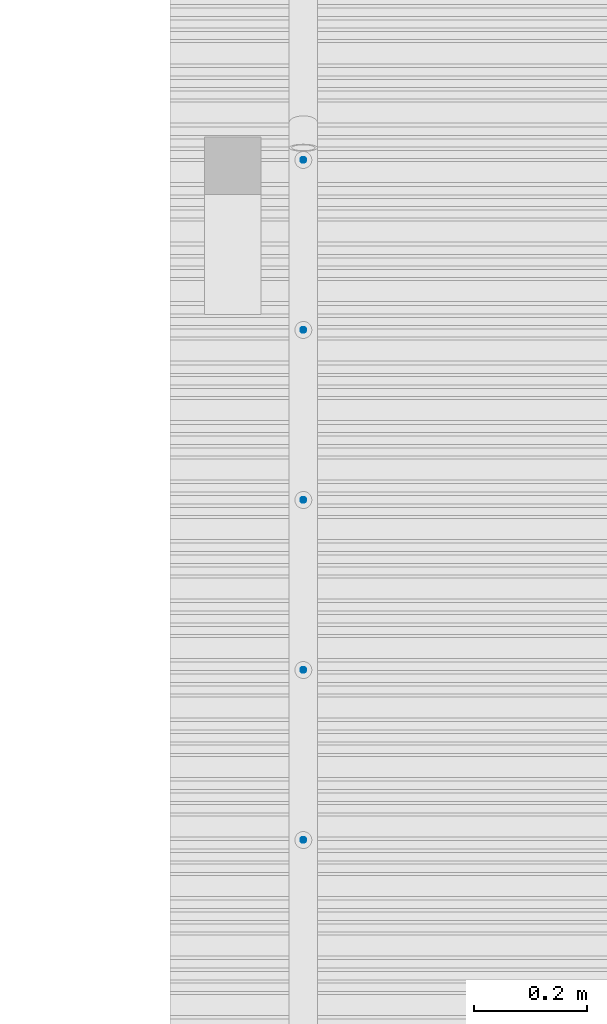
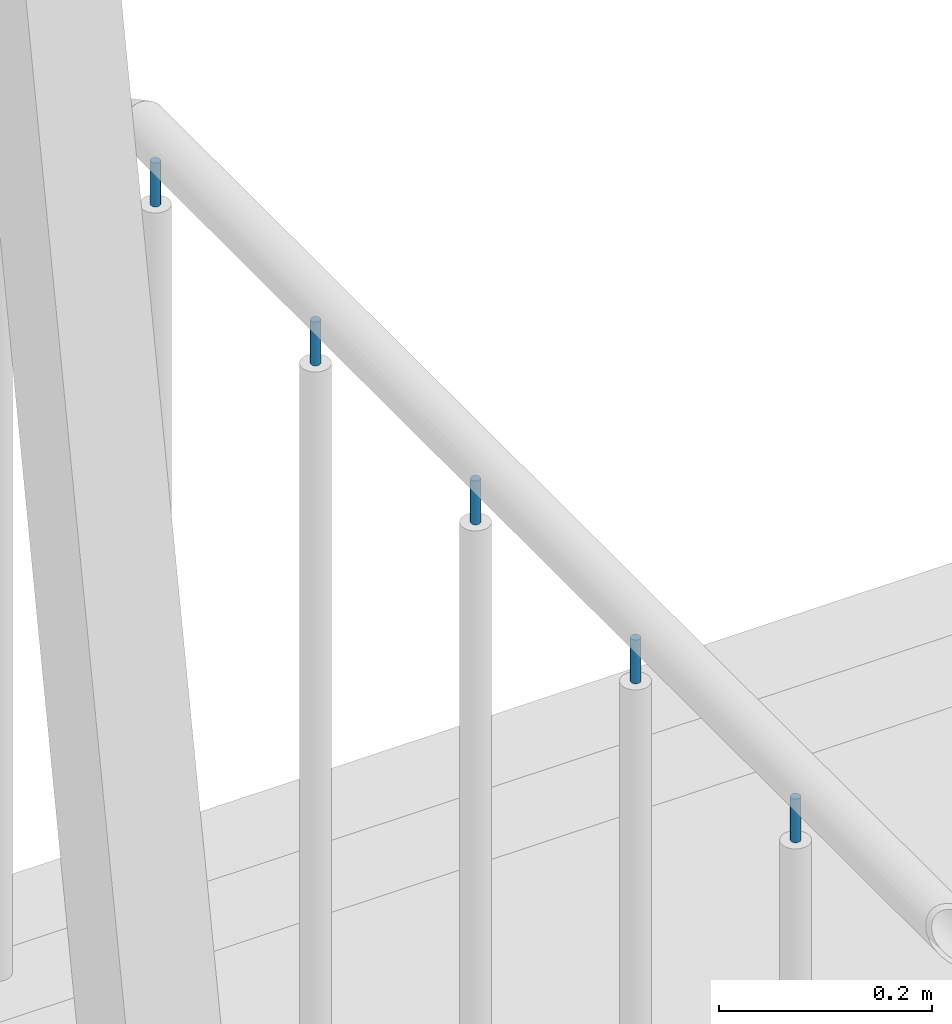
# One storey, part 121 of 418: 1 building element part, 2 elements without a shape of their own.
"""IFC2X3 building model written with IfcOpenShell, lengths in millimetres."""

from ifc_helpers import new_model, entity, si_unit, converted_unit, derived_unit, money_unit, direction, frame, origin_with_axes, place, context, subcontext, project, spatial, faceted_brep, material, type_object, element, aggregate, save


model = new_model("IFC2X3")

# Units and contexts
model_context = context("Model", 3, precision=0.01, world=origin_with_axes(), true_north=direction((0.0, 1.0)))
body_context = subcontext(model_context, "Body", "Model", "MODEL_VIEW")
ifc_project = project(units=[si_unit("LENGTHUNIT", "METRE", prefix="MILLI"), si_unit("AREAUNIT", "SQUARE_METRE"), si_unit("VOLUMEUNIT", "CUBIC_METRE"), converted_unit("PLANEANGLEUNIT", "DEGREE", entity("IfcPlaneAngleMeasure", 0.0174532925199), si_unit("PLANEANGLEUNIT", "RADIAN"), dimensions=[0, 0, 0, 0, 0, 0, 0]), si_unit("SOLIDANGLEUNIT", "STERADIAN"), money_unit("EUR"), converted_unit("TIMEUNIT", "Year", entity("IfcTimeMeasure", 31556926.0), si_unit("TIMEUNIT", "SECOND"), dimensions=[0, 0, 1, 0, 0, 0, 0]), si_unit("MASSUNIT", "GRAM", prefix="KILO"), si_unit("THERMODYNAMICTEMPERATUREUNIT", "DEGREE_CELSIUS"), si_unit("LUMINOUSINTENSITYUNIT", "LUMEN"), si_unit("ENERGYUNIT", "JOULE", prefix="MEGA"), derived_unit("THERMALCONDUCTANCEUNIT", [(si_unit("POWERUNIT", "WATT"), 1), (si_unit("LENGTHUNIT", "METRE"), -1), (si_unit("THERMODYNAMICTEMPERATUREUNIT", "KELVIN"), -1)]), derived_unit("SPECIFICHEATCAPACITYUNIT", [(si_unit("ENERGYUNIT", "JOULE"), 1), (si_unit("MASSUNIT", "GRAM", prefix="KILO"), -1), (si_unit("THERMODYNAMICTEMPERATUREUNIT", "KELVIN"), -1)]), derived_unit("MASSDENSITYUNIT", [(si_unit("MASSUNIT", "GRAM", prefix="KILO"), 1), (si_unit("VOLUMEUNIT", "CUBIC_METRE"), -1)])], contexts=[model_context])

# Site, building, storey
site_placement = place(None, origin_with_axes())
site = spatial("IfcSite", under=ifc_project, at=site_placement, Name="Paldiski mnt 245/1, Tallinn, Harjumaa", CompositionType="COMPLEX")
building_placement = place(site_placement, origin_with_axes())
building = spatial("IfcBuilding", under=site, at=building_placement, Name="RKAS Hoone üldnimetus (kasutust iseloomustav) -> IFC Project Manager -> SOLIBRI", CompositionType="ELEMENT")
storey_placement = place(building_placement, origin_with_axes())
storey = spatial("IfcBuildingStorey", under=building, at=storey_placement, Name="Esimene korrus", CompositionType="ELEMENT", Elevation=0.0)

# Proxies, building element part
building_element_proxy_type_1 = type_object("IfcBuildingElementProxyType", Name="Railing Type", PredefinedType="NOTDEFINED")
proxy_1_placement = place(storey_placement, frame((-41536.0, 460.000000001, -500.846302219), z_axis=(0.0, 0.0, 1.0), x_axis=(1.0, 0.0, 0.0)))
proxy_1 = element("IfcBuildingElementProxy", 1, at=proxy_1_placement, inside=storey, type_object=building_element_proxy_type_1, Name="Trepipiire")
building_element_proxy_type_2 = type_object("IfcBuildingElementProxyType", Name="IfcBuildingElementProxy", PredefinedType="NOTDEFINED")
proxy_2_placement = place(proxy_1_placement, frame((0.0, 855.900250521, 1424.94460278), z_axis=(0.0, 0.0, 1.0), x_axis=(1.0, 0.0, 0.0)))
proxy_2 = element("IfcBuildingElementProxy", 2, at=proxy_2_placement, type_object=building_element_proxy_type_2, Name="ÜL PIIRE - 001")
aggregate(proxy_1, [proxy_2])
ifc_material = material(Name="Teras - Konstruktsioon")
building_element_part_placement = place(proxy_2_placement, origin_with_axes())
building_element_part = element("IfcBuildingElementPart", 3, at=building_element_part_placement, material=ifc_material, Name="Teras - Konstruktsioon", context=body_context, shape_type="Brep", body=[
    faceted_brep([(0.0, -418.900250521, -44.0983005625), (0.868240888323, -418.824289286, -44.0983005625), (0.868240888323, -418.824289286, 5.90169943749), (0.0, -418.900250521, 5.90169943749), (-0.868240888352, -418.824289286, -44.0983005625), (-1.71010071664, -418.598713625, -44.0983005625), (-2.50000000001, -418.23037754, -44.0983005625), (-3.21393804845, -417.730472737, -44.0983005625), (-3.83022221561, -417.11418857, -44.0983005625), (-4.33012701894, -416.400250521, -44.0983005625), (-4.69846310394, -415.610351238, -44.0983005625), (-4.92403876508, -414.768491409, -44.0983005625), (-5.00000000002, -413.900250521, -44.0983005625), (-4.92403876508, -413.032009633, -44.0983005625), (-4.69846310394, -412.190149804, -44.0983005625), (-4.33012701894, -411.400250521, -44.0983005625), (-3.83022221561, -410.686312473, -44.0983005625), (-3.21393804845, -410.070028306, -44.0983005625), (-2.50000000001, -409.570123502, -44.0983005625), (-1.71010071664, -409.201787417, -44.0983005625), (-0.868240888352, -408.976211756, -44.0983005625), (0.0, -408.900250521, -44.0983005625), (0.868240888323, -408.976211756, -44.0983005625), (1.71010071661, -409.201787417, -44.0983005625), (2.49999999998, -409.570123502, -44.0983005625), (3.21393804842, -410.070028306, -44.0983005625), (3.83022221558, -410.686312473, -44.0983005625), (4.33012701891, -411.400250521, -44.0983005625), (4.69846310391, -412.190149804, -44.0983005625), (4.92403876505, -413.032009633, -44.0983005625), (4.99999999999, -413.900250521, -44.0983005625), (4.92403876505, -414.768491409, -44.0983005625), (4.69846310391, -415.610351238, -44.0983005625), (4.33012701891, -416.400250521, -44.0983005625), (3.83022221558, -417.11418857, -44.0983005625), (3.21393804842, -417.730472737, -44.0983005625), (2.49999999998, -418.23037754, -44.0983005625), (1.71010071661, -418.598713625, -44.0983005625), (1.71010071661, -418.598713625, 5.90169943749), (2.49999999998, -418.23037754, 5.90169943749), (3.21393804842, -417.730472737, 5.90169943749), (3.83022221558, -417.11418857, 5.90169943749), (4.33012701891, -416.400250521, 5.90169943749), (4.69846310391, -415.610351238, 5.90169943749), (4.92403876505, -414.768491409, 5.90169943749), (4.99999999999, -413.900250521, 5.90169943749), (4.92403876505, -413.032009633, 5.90169943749), (4.69846310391, -412.190149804, 5.90169943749), (4.33012701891, -411.400250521, 5.90169943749), (3.83022221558, -410.686312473, 5.90169943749), (3.21393804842, -410.070028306, 5.90169943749), (2.49999999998, -409.570123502, 5.90169943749), (1.71010071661, -409.201787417, 5.90169943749), (0.868240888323, -408.976211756, 5.90169943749), (0.0, -408.900250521, 5.90169943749), (-0.868240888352, -408.976211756, 5.90169943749), (-1.71010071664, -409.201787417, 5.90169943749), (-2.50000000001, -409.570123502, 5.90169943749), (-3.21393804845, -410.070028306, 5.90169943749), (-3.83022221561, -410.686312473, 5.90169943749), (-4.33012701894, -411.400250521, 5.90169943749), (-4.69846310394, -412.190149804, 5.90169943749), (-4.92403876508, -413.032009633, 5.90169943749), (-5.00000000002, -413.900250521, 5.90169943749), (-4.92403876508, -414.768491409, 5.90169943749), (-4.69846310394, -415.610351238, 5.90169943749), (-4.33012701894, -416.400250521, 5.90169943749), (-3.83022221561, -417.11418857, 5.90169943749), (-3.21393804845, -417.730472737, 5.90169943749), (-2.50000000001, -418.23037754, 5.90169943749), (-1.71010071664, -418.598713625, 5.90169943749), (-0.868240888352, -418.824289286, 5.90169943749)], [[[0, 1, 2, 3]], [[0, 4, 5, 6, 7, 8, 9, 10, 11, 12, 13, 14, 15, 16, 17, 18, 19, 20, 21, 22, 23, 24, 25, 26, 27, 28, 29, 30, 31, 32, 33, 34, 35, 36, 37, 1]], [[1, 37, 38, 2]], [[3, 2, 38, 39, 40, 41, 42, 43, 44, 45, 46, 47, 48, 49, 50, 51, 52, 53, 54, 55, 56, 57, 58, 59, 60, 61, 62, 63, 64, 65, 66, 67, 68, 69, 70, 71]], [[4, 0, 3, 71]], [[5, 4, 71, 70]], [[6, 5, 70, 69]], [[7, 6, 69, 68]], [[8, 7, 68, 67]], [[9, 8, 67, 66]], [[10, 9, 66, 65]], [[11, 10, 65, 64]], [[12, 11, 64, 63]], [[13, 12, 63, 62]], [[14, 13, 62, 61]], [[15, 14, 61, 60]], [[16, 15, 60, 59]], [[17, 16, 59, 58]], [[18, 17, 58, 57]], [[19, 18, 57, 56]], [[20, 19, 56, 55]], [[21, 20, 55, 54]], [[22, 21, 54, 53]], [[23, 22, 53, 52]], [[24, 23, 52, 51]], [[25, 24, 51, 50]], [[26, 25, 50, 49]], [[27, 26, 49, 48]], [[28, 27, 48, 47]], [[29, 28, 47, 46]], [[30, 29, 46, 45]], [[31, 30, 45, 44]], [[32, 31, 44, 43]], [[33, 32, 43, 42]], [[34, 33, 42, 41]], [[35, 34, 41, 40]], [[36, 35, 40, 39]], [[37, 36, 39, 38]]]),
    faceted_brep([(0.0, -118.900250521, -44.0983005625), (0.86824088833, -118.824289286, -44.0983005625), (0.86824088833, -118.824289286, 5.90169943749), (0.0, -118.900250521, 5.90169943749), (-0.868240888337, -118.824289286, -44.0983005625), (-1.71010071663, -118.598713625, -44.0983005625), (-2.5, -118.23037754, -44.0983005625), (-3.21393804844, -117.730472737, -44.0983005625), (-3.8302222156, -117.11418857, -44.0983005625), (-4.33012701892, -116.400250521, -44.0983005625), (-4.69846310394, -115.610351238, -44.0983005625), (-4.92403876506, -114.768491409, -44.0983005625), (-5.0, -113.900250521, -44.0983005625), (-4.92403876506, -113.032009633, -44.0983005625), (-4.69846310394, -112.190149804, -44.0983005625), (-4.33012701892, -111.400250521, -44.0983005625), (-3.8302222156, -110.686312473, -44.0983005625), (-3.21393804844, -110.070028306, -44.0983005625), (-2.5, -109.570123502, -44.0983005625), (-1.71010071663, -109.201787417, -44.0983005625), (-0.868240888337, -108.976211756, -44.0983005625), (0.0, -108.900250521, -44.0983005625), (0.86824088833, -108.976211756, -44.0983005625), (1.71010071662, -109.201787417, -44.0983005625), (2.5, -109.570123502, -44.0983005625), (3.21393804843, -110.070028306, -44.0983005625), (3.83022221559, -110.686312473, -44.0983005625), (4.33012701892, -111.400250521, -44.0983005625), (4.69846310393, -112.190149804, -44.0983005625), (4.92403876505, -113.032009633, -44.0983005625), (5.0, -113.900250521, -44.0983005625), (4.92403876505, -114.768491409, -44.0983005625), (4.69846310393, -115.610351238, -44.0983005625), (4.33012701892, -116.400250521, -44.0983005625), (3.83022221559, -117.11418857, -44.0983005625), (3.21393804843, -117.730472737, -44.0983005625), (2.5, -118.23037754, -44.0983005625), (1.71010071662, -118.598713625, -44.0983005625), (1.71010071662, -118.598713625, 5.90169943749), (2.5, -118.23037754, 5.90169943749), (3.21393804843, -117.730472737, 5.90169943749), (3.83022221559, -117.11418857, 5.90169943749), (4.33012701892, -116.400250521, 5.90169943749), (4.69846310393, -115.610351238, 5.90169943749), (4.92403876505, -114.768491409, 5.90169943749), (5.0, -113.900250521, 5.90169943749), (4.92403876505, -113.032009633, 5.90169943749), (4.69846310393, -112.190149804, 5.90169943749), (4.33012701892, -111.400250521, 5.90169943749), (3.83022221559, -110.686312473, 5.90169943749), (3.21393804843, -110.070028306, 5.90169943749), (2.5, -109.570123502, 5.90169943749), (1.71010071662, -109.201787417, 5.90169943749), (0.86824088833, -108.976211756, 5.90169943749), (0.0, -108.900250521, 5.90169943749), (-0.868240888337, -108.976211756, 5.90169943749), (-1.71010071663, -109.201787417, 5.90169943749), (-2.5, -109.570123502, 5.90169943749), (-3.21393804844, -110.070028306, 5.90169943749), (-3.8302222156, -110.686312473, 5.90169943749), (-4.33012701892, -111.400250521, 5.90169943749), (-4.69846310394, -112.190149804, 5.90169943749), (-4.92403876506, -113.032009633, 5.90169943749), (-5.0, -113.900250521, 5.90169943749), (-4.92403876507, -114.768491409, 5.90169943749), (-4.69846310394, -115.610351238, 5.90169943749), (-4.33012701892, -116.400250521, 5.90169943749), (-3.8302222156, -117.11418857, 5.90169943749), (-3.21393804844, -117.730472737, 5.90169943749), (-2.5, -118.23037754, 5.90169943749), (-1.71010071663, -118.598713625, 5.90169943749), (-0.868240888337, -118.824289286, 5.90169943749)], [[[0, 1, 2, 3]], [[0, 4, 5, 6, 7, 8, 9, 10, 11, 12, 13, 14, 15, 16, 17, 18, 19, 20, 21, 22, 23, 24, 25, 26, 27, 28, 29, 30, 31, 32, 33, 34, 35, 36, 37, 1]], [[1, 37, 38, 2]], [[3, 2, 38, 39, 40, 41, 42, 43, 44, 45, 46, 47, 48, 49, 50, 51, 52, 53, 54, 55, 56, 57, 58, 59, 60, 61, 62, 63, 64, 65, 66, 67, 68, 69, 70, 71]], [[4, 0, 3, 71]], [[5, 4, 71, 70]], [[6, 5, 70, 69]], [[7, 6, 69, 68]], [[8, 7, 68, 67]], [[9, 8, 67, 66]], [[10, 9, 66, 65]], [[11, 10, 65, 64]], [[12, 11, 64, 63]], [[13, 12, 63, 62]], [[14, 13, 62, 61]], [[15, 14, 61, 60]], [[16, 15, 60, 59]], [[17, 16, 59, 58]], [[18, 17, 58, 57]], [[19, 18, 57, 56]], [[20, 19, 56, 55]], [[21, 20, 55, 54]], [[22, 21, 54, 53]], [[23, 22, 53, 52]], [[24, 23, 52, 51]], [[25, 24, 51, 50]], [[26, 25, 50, 49]], [[27, 26, 49, 48]], [[28, 27, 48, 47]], [[29, 28, 47, 46]], [[30, 29, 46, 45]], [[31, 30, 45, 44]], [[32, 31, 44, 43]], [[33, 32, 43, 42]], [[34, 33, 42, 41]], [[35, 34, 41, 40]], [[36, 35, 40, 39]], [[37, 36, 39, 38]]]),
    faceted_brep([(0.0, 181.099749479, -44.0983005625), (0.868240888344, 181.175710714, -44.0983005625), (0.868240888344, 181.175710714, 5.90169943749), (0.0, 181.099749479, 5.90169943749), (-0.86824088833, 181.175710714, -44.0983005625), (-1.71010071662, 181.401286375, -44.0983005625), (-2.49999999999, 181.76962246, -44.0983005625), (-3.21393804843, 182.269527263, -44.0983005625), (-3.83022221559, 182.88581143, -44.0983005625), (-4.33012701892, 183.599749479, -44.0983005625), (-4.69846310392, 184.389648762, -44.0983005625), (-4.92403876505, 185.231508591, -44.0983005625), (-5.0, 186.099749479, -44.0983005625), (-4.92403876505, 186.967990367, -44.0983005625), (-4.69846310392, 187.809850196, -44.0983005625), (-4.33012701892, 188.599749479, -44.0983005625), (-3.83022221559, 189.313687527, -44.0983005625), (-3.21393804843, 189.929971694, -44.0983005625), (-2.49999999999, 190.429876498, -44.0983005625), (-1.71010071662, 190.798212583, -44.0983005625), (-0.86824088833, 191.023788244, -44.0983005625), (0.0, 191.099749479, -44.0983005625), (0.868240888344, 191.023788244, -44.0983005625), (1.71010071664, 190.798212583, -44.0983005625), (2.5, 190.429876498, -44.0983005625), (3.21393804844, 189.929971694, -44.0983005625), (3.8302222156, 189.313687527, -44.0983005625), (4.33012701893, 188.599749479, -44.0983005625), (4.69846310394, 187.809850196, -44.0983005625), (4.92403876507, 186.967990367, -44.0983005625), (5.00000000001, 186.099749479, -44.0983005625), (4.92403876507, 185.231508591, -44.0983005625), (4.69846310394, 184.389648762, -44.0983005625), (4.33012701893, 183.599749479, -44.0983005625), (3.8302222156, 182.88581143, -44.0983005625), (3.21393804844, 182.269527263, -44.0983005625), (2.5, 181.76962246, -44.0983005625), (1.71010071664, 181.401286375, -44.0983005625), (1.71010071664, 181.401286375, 5.90169943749), (2.5, 181.76962246, 5.90169943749), (3.21393804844, 182.269527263, 5.90169943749), (3.8302222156, 182.88581143, 5.90169943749), (4.33012701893, 183.599749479, 5.90169943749), (4.69846310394, 184.389648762, 5.90169943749), (4.92403876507, 185.231508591, 5.90169943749), (5.00000000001, 186.099749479, 5.90169943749), (4.92403876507, 186.967990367, 5.90169943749), (4.69846310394, 187.809850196, 5.90169943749), (4.33012701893, 188.599749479, 5.90169943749), (3.8302222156, 189.313687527, 5.90169943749), (3.21393804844, 189.929971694, 5.90169943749), (2.5, 190.429876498, 5.90169943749), (1.71010071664, 190.798212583, 5.90169943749), (0.868240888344, 191.023788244, 5.90169943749), (0.0, 191.099749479, 5.90169943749), (-0.86824088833, 191.023788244, 5.90169943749), (-1.71010071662, 190.798212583, 5.90169943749), (-2.49999999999, 190.429876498, 5.90169943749), (-3.21393804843, 189.929971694, 5.90169943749), (-3.83022221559, 189.313687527, 5.90169943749), (-4.33012701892, 188.599749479, 5.90169943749), (-4.69846310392, 187.809850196, 5.90169943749), (-4.92403876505, 186.967990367, 5.90169943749), (-5.0, 186.099749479, 5.90169943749), (-4.92403876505, 185.231508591, 5.90169943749), (-4.69846310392, 184.389648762, 5.90169943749), (-4.33012701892, 183.599749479, 5.90169943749), (-3.83022221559, 182.88581143, 5.90169943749), (-3.21393804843, 182.269527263, 5.90169943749), (-2.49999999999, 181.76962246, 5.90169943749), (-1.71010071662, 181.401286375, 5.90169943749), (-0.86824088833, 181.175710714, 5.90169943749)], [[[0, 1, 2, 3]], [[0, 4, 5, 6, 7, 8, 9, 10, 11, 12, 13, 14, 15, 16, 17, 18, 19, 20, 21, 22, 23, 24, 25, 26, 27, 28, 29, 30, 31, 32, 33, 34, 35, 36, 37, 1]], [[1, 37, 38, 2]], [[3, 2, 38, 39, 40, 41, 42, 43, 44, 45, 46, 47, 48, 49, 50, 51, 52, 53, 54, 55, 56, 57, 58, 59, 60, 61, 62, 63, 64, 65, 66, 67, 68, 69, 70, 71]], [[4, 0, 3, 71]], [[5, 4, 71, 70]], [[6, 5, 70, 69]], [[7, 6, 69, 68]], [[8, 7, 68, 67]], [[9, 8, 67, 66]], [[10, 9, 66, 65]], [[11, 10, 65, 64]], [[12, 11, 64, 63]], [[13, 12, 63, 62]], [[14, 13, 62, 61]], [[15, 14, 61, 60]], [[16, 15, 60, 59]], [[17, 16, 59, 58]], [[18, 17, 58, 57]], [[19, 18, 57, 56]], [[20, 19, 56, 55]], [[21, 20, 55, 54]], [[22, 21, 54, 53]], [[23, 22, 53, 52]], [[24, 23, 52, 51]], [[25, 24, 51, 50]], [[26, 25, 50, 49]], [[27, 26, 49, 48]], [[28, 27, 48, 47]], [[29, 28, 47, 46]], [[30, 29, 46, 45]], [[31, 30, 45, 44]], [[32, 31, 44, 43]], [[33, 32, 43, 42]], [[34, 33, 42, 41]], [[35, 34, 41, 40]], [[36, 35, 40, 39]], [[37, 36, 39, 38]]]),
    faceted_brep([(0.0, 481.099749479, -44.0983005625), (0.868240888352, 481.175710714, -44.0983005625), (0.868240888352, 481.175710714, 5.90169943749), (0.0, 481.099749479, 5.90169943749), (-0.868240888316, 481.175710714, -44.0983005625), (-1.71010071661, 481.401286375, -44.0983005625), (-2.49999999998, 481.76962246, -44.0983005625), (-3.21393804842, 482.269527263, -44.0983005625), (-3.83022221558, 482.88581143, -44.0983005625), (-4.3301270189, 483.599749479, -44.0983005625), (-4.69846310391, 484.389648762, -44.0983005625), (-4.92403876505, 485.231508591, -44.0983005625), (-4.99999999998, 486.099749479, -44.0983005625), (-4.92403876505, 486.967990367, -44.0983005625), (-4.69846310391, 487.809850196, -44.0983005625), (-4.3301270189, 488.599749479, -44.0983005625), (-3.83022221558, 489.313687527, -44.0983005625), (-3.21393804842, 489.929971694, -44.0983005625), (-2.49999999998, 490.429876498, -44.0983005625), (-1.71010071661, 490.798212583, -44.0983005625), (-0.868240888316, 491.023788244, -44.0983005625), (0.0, 491.099749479, -44.0983005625), (0.868240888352, 491.023788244, -44.0983005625), (1.71010071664, 490.798212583, -44.0983005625), (2.50000000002, 490.429876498, -44.0983005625), (3.21393804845, 489.929971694, -44.0983005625), (3.83022221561, 489.313687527, -44.0983005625), (4.33012701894, 488.599749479, -44.0983005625), (4.69846310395, 487.809850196, -44.0983005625), (4.92403876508, 486.967990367, -44.0983005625), (5.00000000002, 486.099749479, -44.0983005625), (4.92403876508, 485.231508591, -44.0983005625), (4.69846310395, 484.389648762, -44.0983005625), (4.33012701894, 483.599749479, -44.0983005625), (3.83022221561, 482.88581143, -44.0983005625), (3.21393804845, 482.269527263, -44.0983005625), (2.50000000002, 481.76962246, -44.0983005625), (1.71010071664, 481.401286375, -44.0983005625), (1.71010071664, 481.401286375, 5.90169943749), (2.50000000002, 481.76962246, 5.90169943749), (3.21393804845, 482.269527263, 5.90169943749), (3.83022221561, 482.88581143, 5.90169943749), (4.33012701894, 483.599749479, 5.90169943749), (4.69846310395, 484.389648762, 5.90169943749), (4.92403876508, 485.231508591, 5.90169943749), (5.00000000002, 486.099749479, 5.90169943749), (4.92403876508, 486.967990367, 5.90169943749), (4.69846310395, 487.809850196, 5.90169943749), (4.33012701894, 488.599749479, 5.90169943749), (3.83022221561, 489.313687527, 5.90169943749), (3.21393804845, 489.929971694, 5.90169943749), (2.50000000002, 490.429876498, 5.90169943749), (1.71010071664, 490.798212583, 5.90169943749), (0.868240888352, 491.023788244, 5.90169943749), (0.0, 491.099749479, 5.90169943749), (-0.868240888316, 491.023788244, 5.90169943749), (-1.71010071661, 490.798212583, 5.90169943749), (-2.49999999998, 490.429876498, 5.90169943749), (-3.21393804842, 489.929971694, 5.90169943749), (-3.83022221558, 489.313687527, 5.90169943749), (-4.3301270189, 488.599749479, 5.90169943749), (-4.69846310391, 487.809850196, 5.90169943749), (-4.92403876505, 486.967990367, 5.90169943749), (-4.99999999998, 486.099749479, 5.90169943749), (-4.92403876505, 485.231508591, 5.90169943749), (-4.69846310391, 484.389648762, 5.90169943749), (-4.3301270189, 483.599749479, 5.90169943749), (-3.83022221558, 482.88581143, 5.90169943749), (-3.21393804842, 482.269527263, 5.90169943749), (-2.49999999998, 481.76962246, 5.90169943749), (-1.71010071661, 481.401286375, 5.90169943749), (-0.868240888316, 481.175710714, 5.90169943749)], [[[0, 1, 2, 3]], [[0, 4, 5, 6, 7, 8, 9, 10, 11, 12, 13, 14, 15, 16, 17, 18, 19, 20, 21, 22, 23, 24, 25, 26, 27, 28, 29, 30, 31, 32, 33, 34, 35, 36, 37, 1]], [[1, 37, 38, 2]], [[3, 2, 38, 39, 40, 41, 42, 43, 44, 45, 46, 47, 48, 49, 50, 51, 52, 53, 54, 55, 56, 57, 58, 59, 60, 61, 62, 63, 64, 65, 66, 67, 68, 69, 70, 71]], [[4, 0, 3, 71]], [[5, 4, 71, 70]], [[6, 5, 70, 69]], [[7, 6, 69, 68]], [[8, 7, 68, 67]], [[9, 8, 67, 66]], [[10, 9, 66, 65]], [[11, 10, 65, 64]], [[12, 11, 64, 63]], [[13, 12, 63, 62]], [[14, 13, 62, 61]], [[15, 14, 61, 60]], [[16, 15, 60, 59]], [[17, 16, 59, 58]], [[18, 17, 58, 57]], [[19, 18, 57, 56]], [[20, 19, 56, 55]], [[21, 20, 55, 54]], [[22, 21, 54, 53]], [[23, 22, 53, 52]], [[24, 23, 52, 51]], [[25, 24, 51, 50]], [[26, 25, 50, 49]], [[27, 26, 49, 48]], [[28, 27, 48, 47]], [[29, 28, 47, 46]], [[30, 29, 46, 45]], [[31, 30, 45, 44]], [[32, 31, 44, 43]], [[33, 32, 43, 42]], [[34, 33, 42, 41]], [[35, 34, 41, 40]], [[36, 35, 40, 39]], [[37, 36, 39, 38]]]),
    faceted_brep([(0.0, 781.099749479, -44.0983005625), (0.868240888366, 781.175710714, -44.0983005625), (0.868240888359, 781.175710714, 5.90169943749), (0.0, 781.099749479, 5.90169943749), (-0.868240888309, 781.175710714, -44.0983005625), (-1.7101007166, 781.401286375, -44.0983005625), (-2.49999999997, 781.76962246, -44.0983005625), (-3.2139380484, 782.269527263, -44.0983005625), (-3.83022221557, 782.88581143, -44.0983005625), (-4.3301270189, 783.599749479, -44.0983005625), (-4.6984631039, 784.389648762, -44.0983005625), (-4.92403876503, 785.231508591, -44.0983005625), (-4.99999999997, 786.099749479, -44.0983005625), (-4.92403876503, 786.967990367, -44.0983005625), (-4.6984631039, 787.809850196, -44.0983005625), (-4.3301270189, 788.599749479, -44.0983005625), (-3.83022221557, 789.313687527, -44.0983005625), (-3.2139380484, 789.929971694, -44.0983005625), (-2.49999999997, 790.429876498, -44.0983005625), (-1.7101007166, 790.798212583, -44.0983005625), (-0.868240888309, 791.023788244, -44.0983005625), (0.0, 791.099749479, -44.0983005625), (0.868240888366, 791.023788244, -44.0983005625), (1.71010071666, 790.798212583, -44.0983005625), (2.50000000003, 790.429876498, -44.0983005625), (3.21393804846, 789.929971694, -44.0983005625), (3.83022221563, 789.313687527, -44.0983005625), (4.33012701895, 788.599749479, -44.0983005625), (4.69846310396, 787.809850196, -44.0983005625), (4.92403876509, 786.967990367, -44.0983005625), (5.00000000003, 786.099749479, -44.0983005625), (4.92403876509, 785.231508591, -44.0983005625), (4.69846310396, 784.389648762, -44.0983005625), (4.33012701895, 783.599749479, -44.0983005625), (3.83022221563, 782.88581143, -44.0983005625), (3.21393804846, 782.269527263, -44.0983005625), (2.50000000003, 781.76962246, -44.0983005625), (1.71010071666, 781.401286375, -44.0983005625), (1.71010071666, 781.401286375, 5.90169943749), (2.50000000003, 781.76962246, 5.90169943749), (3.21393804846, 782.269527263, 5.90169943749), (3.83022221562, 782.88581143, 5.90169943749), (4.33012701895, 783.599749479, 5.90169943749), (4.69846310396, 784.389648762, 5.90169943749), (4.92403876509, 785.231508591, 5.90169943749), (5.00000000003, 786.099749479, 5.90169943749), (4.92403876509, 786.967990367, 5.90169943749), (4.69846310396, 787.809850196, 5.90169943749), (4.33012701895, 788.599749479, 5.90169943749), (3.83022221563, 789.313687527, 5.90169943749), (3.21393804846, 789.929971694, 5.90169943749), (2.50000000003, 790.429876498, 5.90169943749), (1.71010071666, 790.798212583, 5.90169943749), (0.868240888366, 791.023788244, 5.90169943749), (0.0, 791.099749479, 5.90169943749), (-0.868240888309, 791.023788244, 5.90169943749), (-1.7101007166, 790.798212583, 5.90169943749), (-2.49999999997, 790.429876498, 5.90169943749), (-3.2139380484, 789.929971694, 5.90169943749), (-3.83022221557, 789.313687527, 5.90169943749), (-4.3301270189, 788.599749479, 5.90169943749), (-4.6984631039, 787.809850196, 5.90169943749), (-4.92403876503, 786.967990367, 5.90169943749), (-4.99999999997, 786.099749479, 5.90169943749), (-4.92403876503, 785.231508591, 5.90169943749), (-4.6984631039, 784.389648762, 5.90169943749), (-4.3301270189, 783.599749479, 5.90169943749), (-3.83022221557, 782.88581143, 5.90169943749), (-3.2139380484, 782.269527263, 5.90169943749), (-2.49999999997, 781.76962246, 5.90169943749), (-1.7101007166, 781.401286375, 5.90169943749), (-0.868240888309, 781.175710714, 5.90169943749)], [[[0, 1, 2, 3]], [[0, 4, 5, 6, 7, 8, 9, 10, 11, 12, 13, 14, 15, 16, 17, 18, 19, 20, 21, 22, 23, 24, 25, 26, 27, 28, 29, 30, 31, 32, 33, 34, 35, 36, 37, 1]], [[1, 37, 38, 2]], [[3, 2, 38, 39, 40, 41, 42, 43, 44, 45, 46, 47, 48, 49, 50, 51, 52, 53, 54, 55, 56, 57, 58, 59, 60, 61, 62, 63, 64, 65, 66, 67, 68, 69, 70, 71]], [[4, 0, 3, 71]], [[5, 4, 71, 70]], [[6, 5, 70, 69]], [[7, 6, 69, 68]], [[8, 7, 68, 67]], [[9, 8, 67, 66]], [[10, 9, 66, 65]], [[11, 10, 65, 64]], [[12, 11, 64, 63]], [[13, 12, 63, 62]], [[14, 13, 62, 61]], [[15, 14, 61, 60]], [[16, 15, 60, 59]], [[17, 16, 59, 58]], [[18, 17, 58, 57]], [[19, 18, 57, 56]], [[20, 19, 56, 55]], [[21, 20, 55, 54]], [[22, 21, 54, 53]], [[23, 22, 53, 52]], [[24, 23, 52, 51]], [[25, 24, 51, 50]], [[26, 25, 50, 49]], [[27, 26, 49, 48]], [[28, 27, 48, 47]], [[29, 28, 47, 46]], [[30, 29, 46, 45]], [[31, 30, 45, 44]], [[32, 31, 44, 43]], [[33, 32, 43, 42]], [[34, 33, 42, 41]], [[35, 34, 41, 40]], [[36, 35, 40, 39]], [[37, 36, 39, 38]]]),
])
aggregate(proxy_2, [building_element_part])

save(model, "model.ifc")
